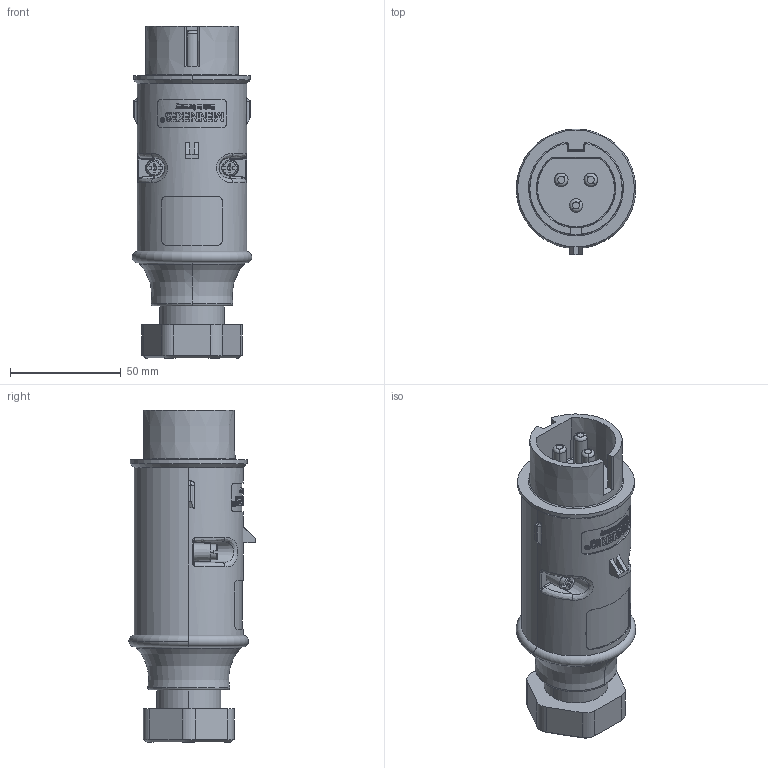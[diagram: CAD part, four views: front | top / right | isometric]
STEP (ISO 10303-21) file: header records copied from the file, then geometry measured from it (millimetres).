
FILE_DESCRIPTION((''),'2;1');
FILE_NAME('1115171_ASM_SW0001','2018-02-05T',('gisse'),('MENNEKES'),'PRO/ENGINEER BY PARAMETRIC TECHNOLOGY CORPORATION, 2015440','PRO/ENGINEER BY PARAMETRIC TECHNOLOGY CORPORATION, 2015440','');
FILE_SCHEMA(('AUTOMOTIVE_DESIGN { 1 0 10303 214 1 1 1 1 }'));
Length unit declared in the file: millimetre
Products named in the file (1): 1115171_ASM_SW0001
Bounding box: 54 x 57 x 150 mm (x, y, z)
Volume: 220904.3 mm3; surface area: 32151.9 mm2
Topology: 1 solids, 1 shells, 633 faces, 1670 edges, 1083 vertices
Faces by surface type: plane 322, cylinder 106, extrusion 106, torus 33, bspline 32, cone 30, sphere 4
Entity records: 30192 total; most frequent: CARTESIAN_POINT 7510, ORIENTED_EDGE 3332, DIRECTION 2588, EDGE_CURVE 1666, FILL_AREA_STYLE_COLOUR 1175, FILL_AREA_STYLE 1175, SURFACE_STYLE_FILL_AREA 1175, SURFACE_SIDE_STYLE 1175
